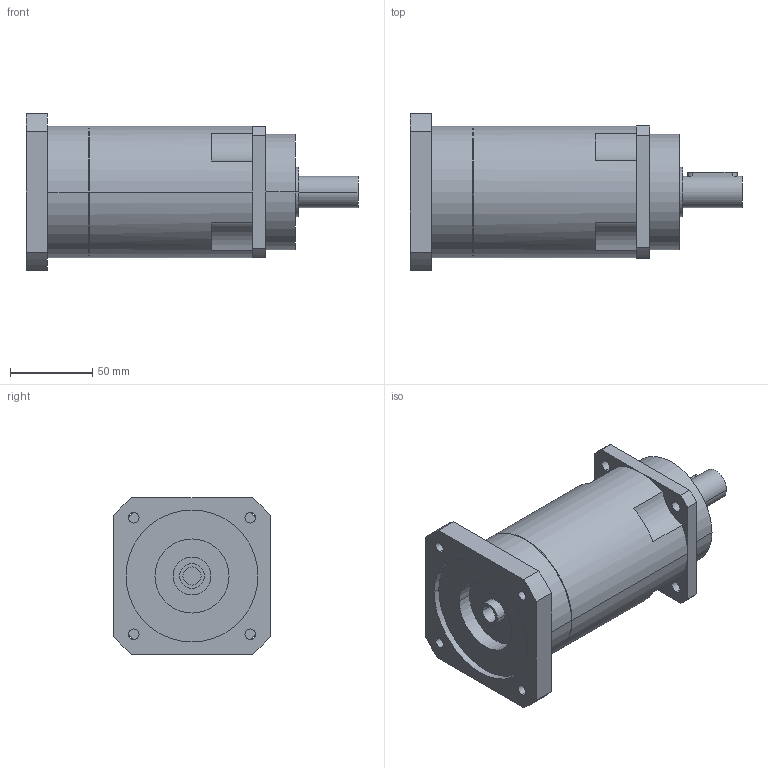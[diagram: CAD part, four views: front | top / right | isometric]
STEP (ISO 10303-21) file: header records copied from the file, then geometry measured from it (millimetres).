
FILE_DESCRIPTION(('CoCreate Modeling STEP Export'),'2;1');
FILE_NAME('GPR100_ig-48-64-80-100-120-144-180-216_19_B5_11_P06.stp','2014-08-26T11:53:22',(''),(''),'CoCreate Modeling STEP processor for AP214 (Solid Model)','CoCreate Modeling 16.00C 25-Feb-2009 (C) Parametric Technology GmbH','');
FILE_SCHEMA(('AUTOMOTIVE_DESIGN { 1 0 10303 214 1 1 1 1 }'));
Length unit declared in the file: millimetre
Products named in the file (2): GPR100_ig-48-64-80-100-120-144-180-216_19_B5_11_P06
Assembly tree (1 placements, depth 2):
  GPR100_ig-48-64-80-100-120-144-180-216_19_B5_11_P06
    GPR100_ig-48-64-80-100-120-144-180-216_19_B5_11_P06
Bounding box: 201.4 x 95 x 95 mm (x, y, z)
Volume: 824707 mm3; surface area: 70730.9 mm2
Topology: 1 solids, 1 shells, 89 faces, 247 edges, 169 vertices
Faces by surface type: cylinder 52, plane 31, cone 6
Entity records: 2612 total; most frequent: ORIENTED_EDGE 490, CARTESIAN_POINT 474, DIRECTION 386, EDGE_CURVE 245, VERTEX_POINT 169, AXIS2_PLACEMENT_3D 145, EDGE_LOOP 116, VECTOR 96
